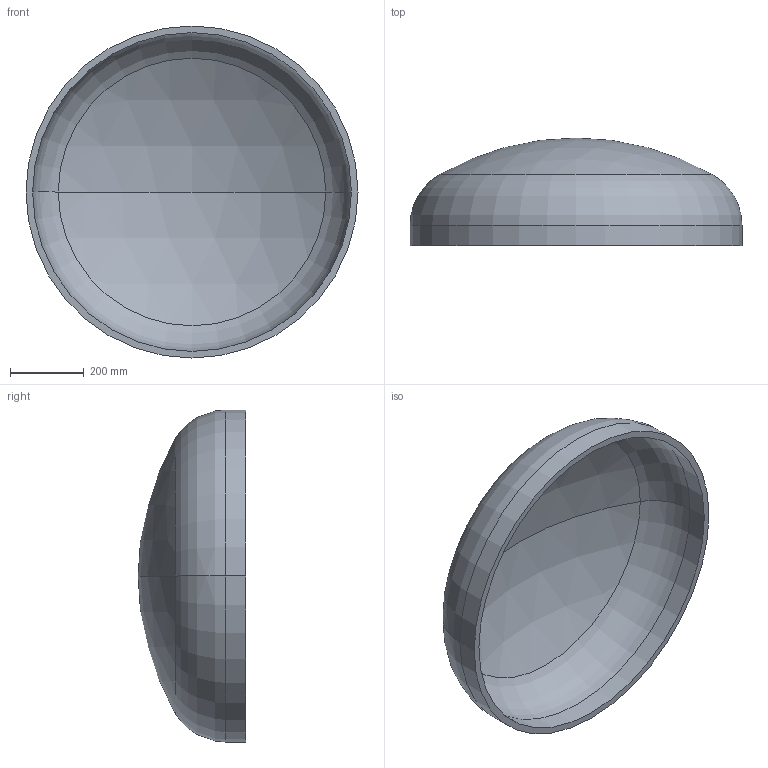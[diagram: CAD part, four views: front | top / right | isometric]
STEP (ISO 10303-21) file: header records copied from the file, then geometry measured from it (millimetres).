
FILE_DESCRIPTION (( 'STEP AP203' ), '1' );
FILE_NAME ('DIN 28013 Korbbogenform_-_Boden DIN 28013 - 900 x 55 - I - s=18.step', '2016-07-01T08:27:09', ( '' ), ( '' ), 'SwSTEP 2.0', 'SolidWorks 2013', '' );
FILE_SCHEMA (( 'CONFIG_CONTROL_DESIGN' ));
Length unit declared in the file: millimetre
Products named in the file (1): DIN 28013 Korbbogenform_-_Boden DIN 28013 - 900 x 55 - I - s=18
Bounding box: 900 x 291.87 x 900 mm (x, y, z)
Volume: 18221642.2 mm3; surface area: 2075180.8 mm2
Topology: 1 solids, 1 shells, 13 faces, 24 edges, 14 vertices
Faces by surface type: torus 4, cylinder 4, sphere 4, plane 1
Entity records: 407 total; most frequent: DIRECTION 72, CARTESIAN_POINT 52, ORIENTED_EDGE 48, AXIS2_PLACEMENT_3D 34, EDGE_CURVE 24, CIRCLE 20, VERTEX_POINT 14, EDGE_LOOP 14
